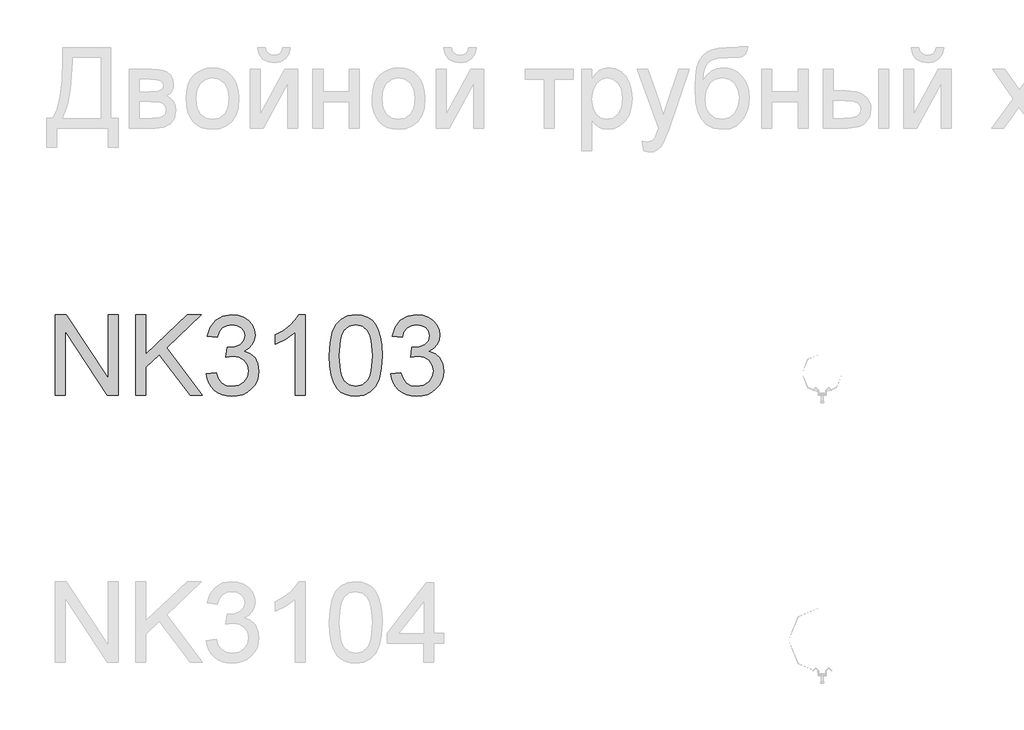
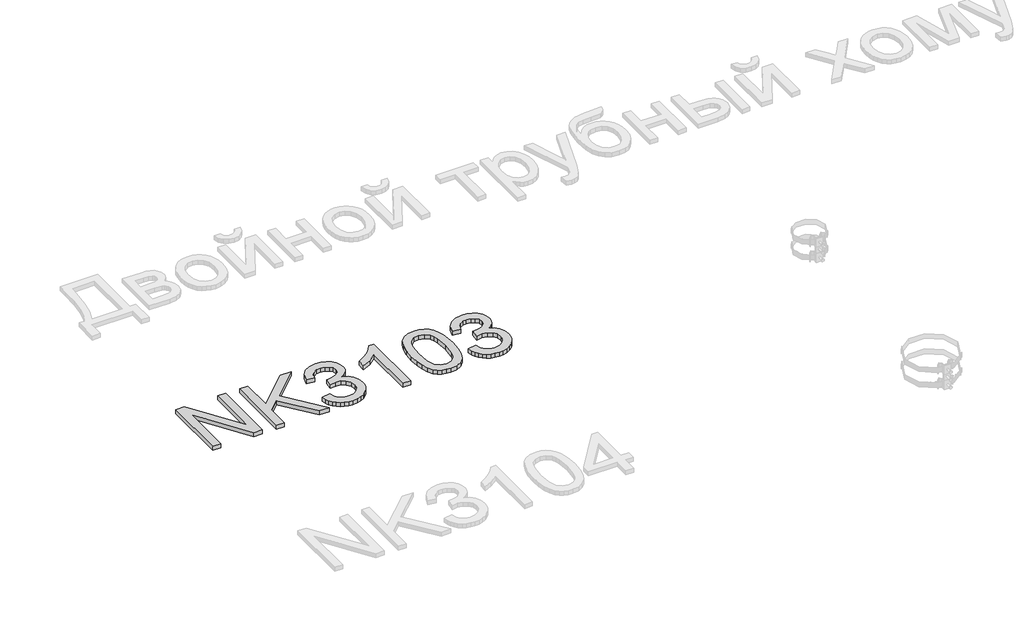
# One storey, part 15 of 124: 1 proxy.
"""IFC4 building model written with IfcOpenShell, lengths in millimetres."""

from ifc_helpers import new_model, si_unit, origin, origin_with_axes, place, context, project, spatial, polyline, outline, extrude, element, save

model = new_model("IFC4")

# Units and contexts
model_context = context("Model", 3, world=origin())
ifc_project = project(units=[si_unit("LENGTHUNIT", "METRE", prefix="MILLI")], contexts=[model_context])

# Site, building, storey
site = spatial("IfcSite", under=ifc_project)
building = spatial("IfcBuilding", under=site)
storey = spatial("IfcBuildingStorey", under=building, Name="Этаж 01", Elevation=0.0)

# Proxy
placement = place(None, origin())
element("IfcBuildingElementProxy", 1, Name="300", ObjectType="300", at=placement, inside=storey, context=model_context, shape_type="SweptSolid", body=[
    extrude(outline(polyline([(1299.8220677, -105548.8731539), (1299.8220677, -105247.5042234), (1340.1419344, -105247.5042234), (1497.5954283, -105486.2596383), (1497.5954283, -105247.5042234), (1535.2665446, -105247.5042234), (1535.2665446, -105548.8731539), (1494.9466779, -105548.8731539), (1337.493184, -105310.0441626), (1337.493184, -105548.8731539), (1299.8220677, -105548.8731539)])), origin_with_axes(), (0.0, 0.0, 1.0), 20.0),
    extrude(outline(polyline([(1601.1909981, -105548.8731539), (1601.1909981, -105247.5042234), (1638.8621144, -105247.5042234), (1638.8621144, -105395.0249035), (1793.3725524, -105247.5042234), (1846.0532541, -105247.5042234), (1716.3380626, -105371.4068794), (1850.7621437, -105548.8731539), (1804.7033179, -105548.8731539), (1689.6298298, -105396.8643135), (1638.8621144, -105445.277584), (1638.8621144, -105548.8731539), (1601.1909981, -105548.8731539)])), origin_with_axes(), (0.0, 0.0, 1.0), 20.0),
    extrude(outline(polyline([(1864.8888123, -105468.8220317), (1902.5599286, -105464.1131422), (1910.9936233, -105487.7863486), (1923.3452613, -105503.7708213), (1940.2218478, -105512.8759007), (1962.2303882, -105515.9109271), (1988.0557043, -105511.7354665), (2007.9949084, -105499.2090845), (2020.7420195, -105480.5206792), (2024.9910566, -105457.8591483), (2020.7788077, -105436.3472486), (2008.1420612, -105418.900445), (1989.0121975, -105407.3397533), (1965.320597, -105403.4861894), (1938.9066697, -105407.6064677), (1943.1005245, -105369.9353514), (1949.1337892, -105370.3768098), (1971.7033496, -105367.6728772), (1991.881677, -105359.5610792), (2006.1187102, -105345.8390807), (2010.864388, -105326.3045468), (2007.4246913, -105310.0349656), (1997.1056014, -105296.837199), (1981.360252, -105288.0908046), (1961.641777, -105285.1753397), (1941.8865139, -105288.1183957), (1925.7364943, -105296.9475636), (1913.9458763, -105311.6628434), (1907.2688181, -105332.2642351), (1869.5977018, -105327.5553456), (1880.689344, -105293.7285961), (1900.426213, -105268.4734972), (1927.4287515, -105252.7465419), (1960.3174018, -105247.5042234), (1983.9998053, -105250.0885945), (2005.7508282, -105257.8417075), (2024.0897457, -105270.0737838), (2037.5358326, -105286.0950447), (2045.7855864, -105304.5535238), (2048.5355043, -105324.0972548), (2045.9235421, -105342.3074136), (2038.0876556, -105358.8253152), (2025.1382094, -105372.8968015), (2007.185568, -105383.7677145), (2030.7668039, -105393.2958581), (2048.2411987, -105409.5194541), (2059.0569293, -105431.5555856), (2062.6621729, -105458.5213359), (2060.8595511, -105477.6328055), (2055.4516858, -105495.235959), (2046.4385769, -105511.3307963), (2033.8202245, -105525.9173174), (2018.4473556, -105538.020635), (2001.1706974, -105546.6658619), (1981.9902499, -105551.852998), (1960.906013, -105553.5820434), (1941.8497257, -105552.1059169), (1924.4856955, -105547.6775374), (1908.8139225, -105540.2969049), (1894.8344067, -105529.9640193), (1883.1127666, -105517.2858861), (1874.2146209, -105502.8695104), (1868.1399694, -105486.7148923), (1864.8888123, -105468.8220317)])), origin_with_axes(), (0.0, 0.0, 1.0), 20.0),
    extrude(outline(polyline([(2236.8910858, -105548.8731539), (2199.2199695, -105548.8731539), (2199.2199695, -105314.0172882), (2163.535416, -105339.437934), (2123.8777369, -105358.4574332), (2123.8777369, -105322.846456), (2153.4646464, -105306.7516188), (2179.0968244, -105287.6033609), (2199.302743, -105267.2410925), (2212.6108741, -105247.5042234), (2236.8910858, -105247.5042234), (2236.8910858, -105548.8731539)])), origin_with_axes(), (0.0, 0.0, 1.0), 20.0),
    extrude(outline(polyline([(2326.359987, -105400.6167098), (2329.128299, -105352.3781832), (2337.4332351, -105313.9069236), (2351.1920217, -105284.6143197), (2370.3218855, -105263.9117604), (2394.9607821, -105251.6061077), (2425.2466673, -105247.5042234), (2448.4600212, -105249.9322446), (2469.245354, -105257.2163081), (2486.6277782, -105269.0713054), (2499.6324068, -105285.2121279), (2509.454856, -105305.50082), (2517.2907425, -105329.7994258), (2522.4226964, -105360.6555281), (2524.1333476, -105400.6167098), (2521.3926268, -105448.579325), (2513.1704642, -105486.9586141), (2499.494451, -105516.2788091), (2480.3921784, -105537.0641418), (2455.6980995, -105549.452568), (2425.2466673, -105553.5820434), (2404.4981228, -105551.7886187), (2386.1040231, -105546.4083445), (2370.0643681, -105537.4412209), (2356.3791578, -105524.8872478), (2343.2457706, -105502.1935272), (2333.8647797, -105473.9171974), (2328.2361852, -105440.0582582), (2326.359987, -105400.6167098)]), holes=[polyline([(2364.0311033, -105400.5431334), (2368.4456873, -105459.7997258), (2373.9639172, -105480.0677245), (2381.6894391, -105494.0955248), (2401.4079141, -105510.4570765), (2425.2466673, -105515.9109271), (2449.0854206, -105510.4386824), (2468.8038956, -105494.0219484), (2476.5294175, -105479.9711555), (2482.0476474, -105459.7077553), (2486.4622313, -105400.5431334), (2482.1948002, -105342.6201133), (2476.8605113, -105322.4187932), (2469.3925068, -105308.0575998), (2449.71082, -105290.8959048), (2424.8052089, -105285.1753397), (2401.2239731, -105290.2153231), (2382.2780503, -105305.3352731), (2374.295011, -105320.9702579), (2368.5928401, -105342.0498962), (2364.0311033, -105400.5431334)])]), origin_with_axes(), (0.0, 0.0, 1.0), 20.0),
    extrude(outline(polyline([(2557.0955744, -105468.8220317), (2594.7666907, -105464.1131422), (2603.2003855, -105487.7863486), (2615.5520234, -105503.7708213), (2632.42861, -105512.8759007), (2654.4371503, -105515.9109271), (2680.2624664, -105511.7354665), (2700.2016705, -105499.2090845), (2712.9487817, -105480.5206792), (2717.1978187, -105457.8591483), (2712.9855699, -105436.3472486), (2700.3488233, -105418.900445), (2681.2189596, -105407.3397533), (2657.5273591, -105403.4861894), (2631.1134318, -105407.6064677), (2635.3072866, -105369.9353514), (2641.3405513, -105370.3768098), (2663.9101117, -105367.6728772), (2684.0884391, -105359.5610792), (2698.3254724, -105345.8390807), (2703.0711501, -105326.3045468), (2699.6314534, -105310.0349656), (2689.3123635, -105296.837199), (2673.5670141, -105288.0908046), (2653.8485391, -105285.1753397), (2634.093276, -105288.1183957), (2617.9432564, -105296.9475636), (2606.1526385, -105311.6628434), (2599.4755803, -105332.2642351), (2561.8044639, -105327.5553456), (2572.8961061, -105293.7285961), (2592.6329751, -105268.4734972), (2619.6355136, -105252.7465419), (2652.524164, -105247.5042234), (2676.2065674, -105250.0885945), (2697.9575904, -105257.8417075), (2716.2965078, -105270.0737838), (2729.7425947, -105286.0950447), (2737.9923485, -105304.5535238), (2740.7422664, -105324.0972548), (2738.1303042, -105342.3074136), (2730.2944177, -105358.8253152), (2717.3449715, -105372.8968015), (2699.3923301, -105383.7677145), (2722.973566, -105393.2958581), (2740.4479608, -105409.5194541), (2751.2636915, -105431.5555856), (2754.868935, -105458.5213359), (2753.0663132, -105477.6328055), (2747.6584479, -105495.235959), (2738.645339, -105511.3307963), (2726.0269866, -105525.9173174), (2710.6541177, -105538.020635), (2693.3774595, -105546.6658619), (2674.197012, -105551.852998), (2653.1127752, -105553.5820434), (2634.0564878, -105552.1059169), (2616.6924576, -105547.6775374), (2601.0206846, -105540.2969049), (2587.0411688, -105529.9640193), (2575.3195287, -105517.2858861), (2566.421383, -105502.8695104), (2560.3467315, -105486.7148923), (2557.0955744, -105468.8220317)])), origin_with_axes(), (0.0, 0.0, 1.0), 20.0),
])

save(model, "model.ifc")
